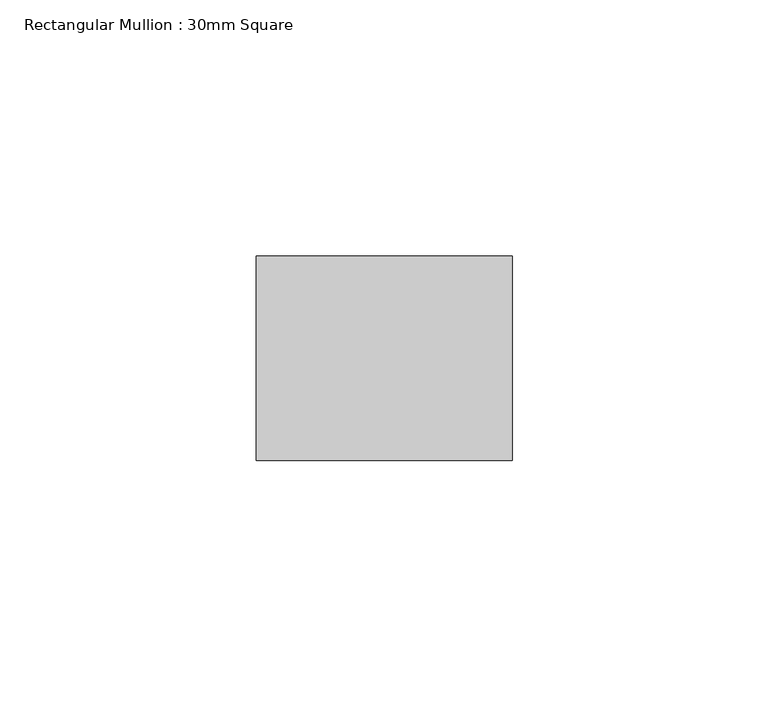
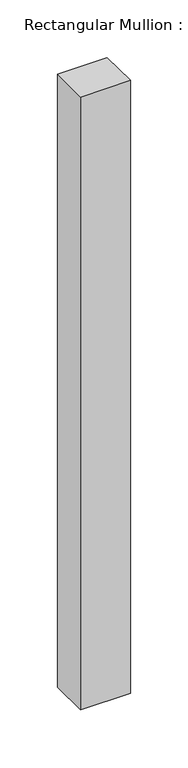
"""IFC4 building model written with IfcOpenShell, lengths in millimetres: member geometry, Rectangular Mullion : 30mm Square."""

from ifc_helpers import new_model, si_unit, frame, origin, place, context, project, spatial, polyline, outline, extrude, source, transform, mapped, element, save


def rectangular_mullion_30mm_square_ff14cbc6(model_context):
    return source(origin(), model_context, "Body", "SweptSolid", [
        extrude(outline(polyline([(0.0, 20.0), (0.0, -20.0), (-50.0, -20.0), (-50.0, 20.0), (0.0, 20.0)])), frame((0.0, 0.0, -650.0), z_axis=(0.0, 0.0, 1.0), x_axis=(1.0, 0.0, 0.0)), (0.0, 0.0, 1.0), 650.0),
    ])


if __name__ == "__main__":
    model = new_model("IFC4")
    model_context = context("Model", 3, world=origin())
    ifc_project = project(units=[si_unit("LENGTHUNIT", "METRE", prefix="MILLI")], contexts=[model_context])
    site = spatial("IfcSite", under=ifc_project)
    building = spatial("IfcBuilding", under=site)
    placement = place(None, origin())
    rectangular_mullion_30mm_square_shape = rectangular_mullion_30mm_square_ff14cbc6(model_context)
    element("IfcMember", 1, ObjectType="Rectangular Mullion : 30mm Square", at=placement, inside=building, context=model_context, shape_type="MappedRepresentation", body=[
        mapped(rectangular_mullion_30mm_square_shape, transform((0.0, 0.0, 0.0), x_axis=(1.0, 0.0, 0.0), y_axis=(0.0, 1.0, 0.0), z_axis=(0.0, 0.0, 1.0))),
    ])
    save(model, "model.ifc")
